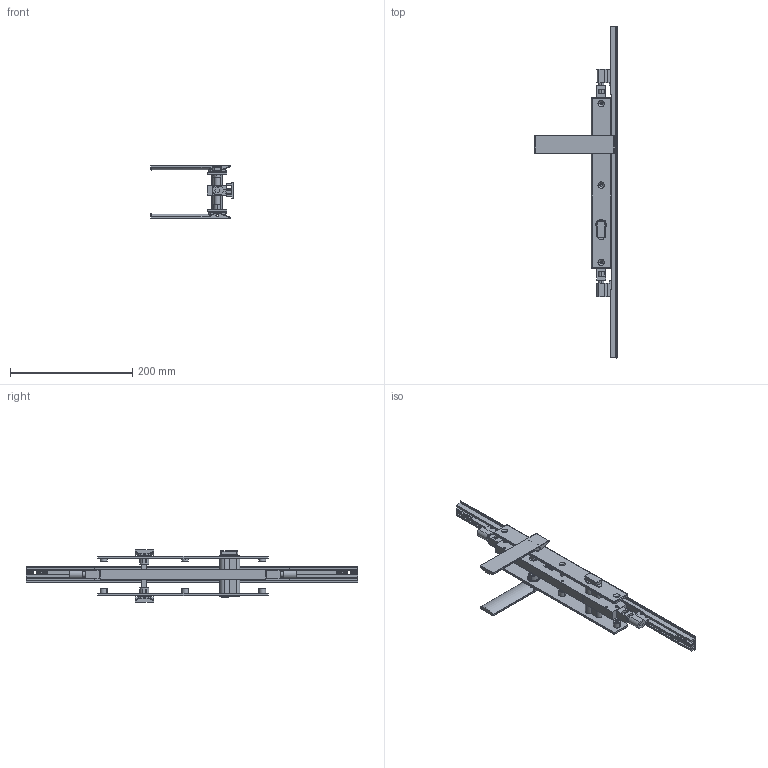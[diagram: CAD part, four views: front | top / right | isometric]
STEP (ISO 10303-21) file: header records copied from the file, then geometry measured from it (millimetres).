
FILE_DESCRIPTION (( 'STEP AP214' ), '1' );
FILE_NAME ('TPL-W-511-U 19July2024.STEP', '2024-12-05T00:05:05', ( '' ), ( '' ), 'SwSTEP 2.0', 'SolidWorks 2023', '' );
FILE_SCHEMA (( 'AUTOMOTIVE_DESIGN' ));
Length unit declared in the file: millimetre
Products named in the file (21): Copy of Adapter CnE - simplfied^TPL-W-011 19July2024_26mm backset; Copy of TPLGen2 lock body keyed assembly^TPL-W-011 19July2024_Bolts retracted; Copy of TPL-020 Lock cylinder suit 2.25 inch panel^TPL-W-011 19July2024; Copy of COV-112-B Cover B suit TPLGen2 standard range^TPL-W-011 19July2024_2870mm; Copy of COV-112-A Cover A suit TPLGen2 standard range^TPL-W-011 19July2024_1335mm; Copy of TPGen2 handle keyed internal - simplified^TPL-W-011 19July2024_Left; Copy of Handle sub-assembly - simplified^Copy of TPGen2 handle keyed external - simplified_TPL-W-011 19July2024; Copy of LKC-547 Spindle - simplified^Copy of TPGen2 handle keyed external - simplified_TPL-W-011 19July2024_G - 24mm; Copy of TPLGen2 lock body keyed^Copy of TPLGen2 lock body keyed assembly_TPL-W-011 19July2024; Copy of Escutcheon plate keyed internal 280mm - simplified^Copy of TPGen2 handle keyed internal - simplified_TPL-W-011 19July2024; Bolt.step; Copy of Escutcheon plate keyed external 280mm - simplified^Copy of TPGen2 handle keyed external - simplified_TPL-W-011 19July2024; TPLGen2 push rod - simplified_Female thread M10; Copy of TPGen2 handle keyed external - simplified^TPL-W-011 19July2024_Right; Copy of Adapter DnF - simplfied^TPL-W-011 19July2024_26mm backset; Copy of Copy of LKC-531 Lock twinpoint transmission rod wood system^TPL-W-011 19July2024_Standard Range 2891.7mm; Copy of LKC-547 Spindle - simplified^Copy of TPGen2 handle keyed internal - simplified_TPL-W-011 19July2024_E - 19mm; TPL-W-511-U 19July2024; Copy of LKC-531 Lock twinpoint transmission rod wood system^TPL-W-011 19July2024_Standard Range (588.7mm); Copy of Handle sub-assembly - simplified^Copy of TPGen2 handle keyed internal - simplified_TPL-W-011 19July2024; Copy of COV-112-C Cover C TPLGen2 Lock body^TPL-W-011 19July2024
Assembly tree (18 placements, depth 3):
  Copy of COV-112-B Cover B suit TPLGen2 standard range^TPL-W-011 19July2024_2870mm
  Copy of COV-112-A Cover A suit TPLGen2 standard range^TPL-W-011 19July2024_1335mm
  Bolt.step
  TPL-W-511-U 19July2024
    Copy of TPLGen2 lock body keyed assembly^TPL-W-011 19July2024_Bolts retracted
      Copy of TPLGen2 lock body keyed^Copy of TPLGen2 lock body keyed assembly_TPL-W-011 19July2024
      TPLGen2 push rod - simplified_Female thread M10  x2
    Copy of TPGen2 handle keyed internal - simplified^TPL-W-011 19July2024_Left
      Copy of Escutcheon plate keyed internal 280mm - simplified^Copy of TPGen2 handle keyed internal - simplified_TPL-W-011 19July2024
      Copy of Handle sub-assembly - simplified^Copy of TPGen2 handle keyed internal - simplified_TPL-W-011 19July2024
      Copy of LKC-547 Spindle - simplified^Copy of TPGen2 handle keyed internal - simplified_TPL-W-011 19July2024_E - 19mm
    Copy of TPGen2 handle keyed external - simplified^TPL-W-011 19July2024_Right
      Copy of Escutcheon plate keyed external 280mm - simplified^Copy of TPGen2 handle keyed external - simplified_TPL-W-011 19July2024
      Copy of Handle sub-assembly - simplified^Copy of TPGen2 handle keyed external - simplified_TPL-W-011 19July2024
      Copy of LKC-547 Spindle - simplified^Copy of TPGen2 handle keyed external - simplified_TPL-W-011 19July2024_G - 24mm
    Copy of TPL-020 Lock cylinder suit 2.25 inch panel^TPL-W-011 19July2024
    Copy of COV-112-C Cover C TPLGen2 Lock body^TPL-W-011 19July2024
    Copy of Copy of LKC-531 Lock twinpoint transmission rod wood system^TPL-W-011 19July2024_Standard Range 2891.7mm
    Copy of LKC-531 Lock twinpoint transmission rod wood system^TPL-W-011 19July2024_Standard Range (588.7mm)
    Copy of Adapter CnE - simplfied^TPL-W-011 19July2024_26mm backset
    Copy of Adapter DnF - simplfied^TPL-W-011 19July2024_26mm backset
Bounding box: 134.5 x 544 x 86.29 mm (x, y, z)
Volume: 362869.8 mm3; surface area: 178542.8 mm2
Topology: 17 solids, 20 shells, 1091 faces, 2768 edges, 1728 vertices
Faces by surface type: cylinder 453, plane 422, bspline 89, torus 68, cone 35, sphere 24
Entity records: 33411 total; most frequent: CARTESIAN_POINT 7278, DIRECTION 5480, ORIENTED_EDGE 5280, EDGE_CURVE 2640, AXIS2_PLACEMENT_3D 2054, VERTEX_POINT 1668, LINE 1372, VECTOR 1372
